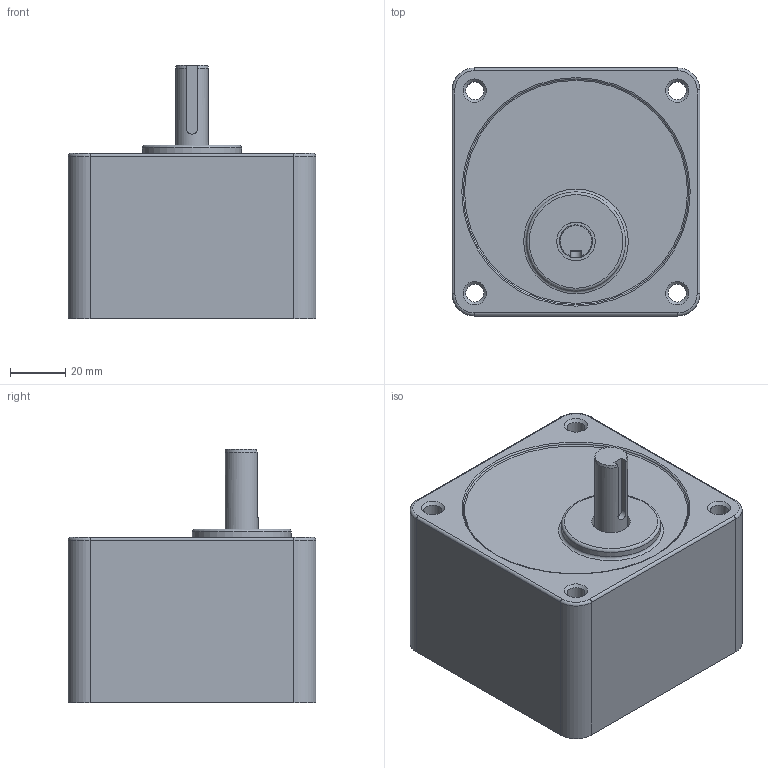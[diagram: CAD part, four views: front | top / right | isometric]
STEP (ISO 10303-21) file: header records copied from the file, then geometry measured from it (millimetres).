
FILE_DESCRIPTION((''),'2;1');
FILE_NAME('\\192.168.2.97\고객배포용도면\3D\Small Standard Series\GEAR HEAD\GEAR HEAD\40W\S9KB20~200.stp','2013-11-27T11:11:54',('jy-jung'),(''),'Autodesk Inventor 2011','Autodesk Inventor 2011','');
FILE_SCHEMA(('AUTOMOTIVE_DESIGN { 1 0 10303 214 1 1 1 1 }'));
Length unit declared in the file: millimetre
Products named in the file (1): 부품10
Bounding box: 90 x 90 x 92 mm (x, y, z)
Volume: 434437.1 mm3; surface area: 45846.9 mm2
Topology: 1 solids, 1 shells, 46 faces, 104 edges, 66 vertices
Faces by surface type: cylinder 18, plane 15, torus 8, cone 5
Full cylindrical faces by diameter (mm): 6.5 x4, 9 x1, 12 x1, 14 x1, 36 x1, 83 x1
Entity records: 1232 total; most frequent: DIRECTION 225, CARTESIAN_POINT 208, ORIENTED_EDGE 164, AXIS2_PLACEMENT_3D 98, EDGE_CURVE 82, EDGE_LOOP 77, VERTEX_POINT 61, CIRCLE 51
